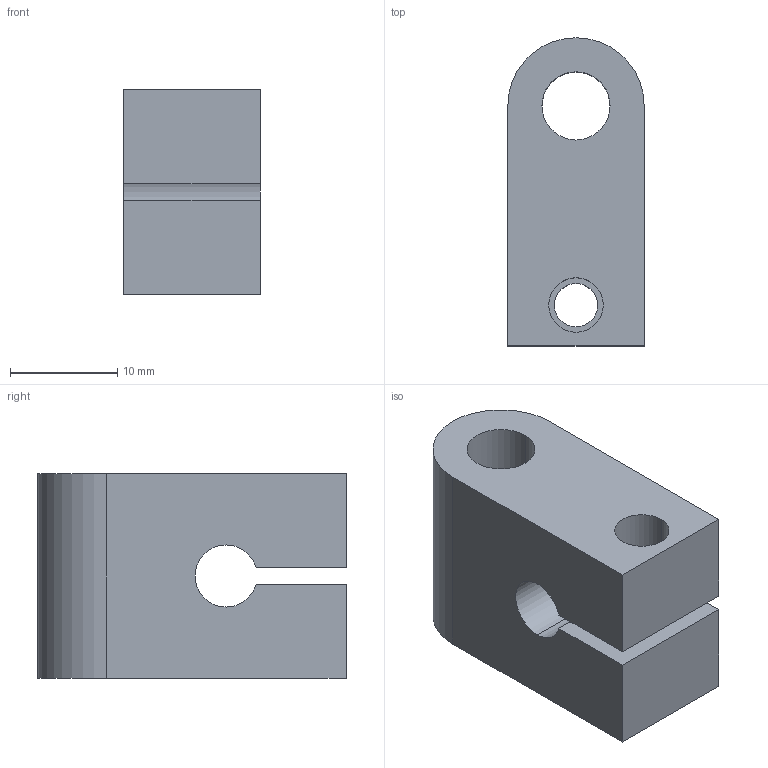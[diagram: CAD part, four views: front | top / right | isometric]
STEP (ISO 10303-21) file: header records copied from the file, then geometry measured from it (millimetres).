
FILE_DESCRIPTION (( 'STEP AP203' ), '1' );
FILE_NAME ('269-18-312.STEP', '2020-03-02T22:21:50', ( '' ), ( '' ), 'SwSTEP 2.0', 'SolidWorks 2017', '' );
FILE_SCHEMA (( 'CONFIG_CONTROL_DESIGN' ));
Length unit declared in the file: inch
Products named in the file (1): 269-18-312
Bounding box: 12.7 x 28.7 x 19.05 mm (x, y, z)
Volume: 5226.3 mm3; surface area: 2996.5 mm2
Topology: 1 solids, 1 shells, 18 faces, 48 edges, 32 vertices
Faces by surface type: cylinder 10, plane 8
Entity records: 663 total; most frequent: DIRECTION 106, CARTESIAN_POINT 99, ORIENTED_EDGE 96, EDGE_CURVE 48, AXIS2_PLACEMENT_3D 39, VERTEX_POINT 32, VECTOR 28, LINE 28
